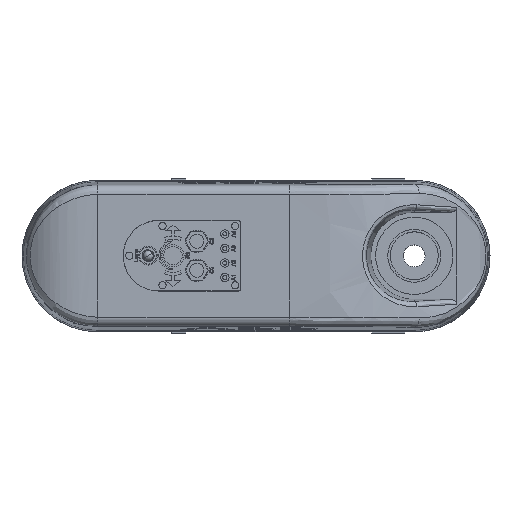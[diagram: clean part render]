
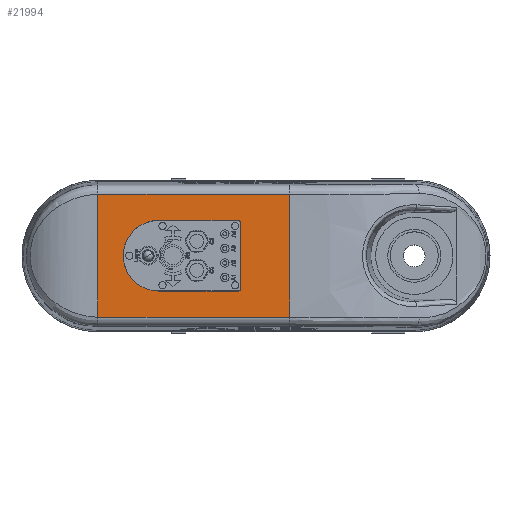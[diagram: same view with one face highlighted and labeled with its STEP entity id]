
A CAD part, top view. The second image highlights one B-rep face of the part: STEP entity #21994.
In plain terms, the highlighted planar face has unit normal (0, 0, 1).
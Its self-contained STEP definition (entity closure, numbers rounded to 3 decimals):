
#269 = CARTESIAN_POINT ( 'NONE',  ( 482.5, -32.001, 457.7 ) ) ;
#804 = CARTESIAN_POINT ( 'NONE',  ( 530., -705.455, 457.7 ) ) ;
#855 = CARTESIAN_POINT ( 'NONE',  ( 482.5, 33.172, 457.7 ) ) ;
#938 = DIRECTION ( 'NONE',  ( -1., 0., 0. ) ) ;
#1098 = DIRECTION ( 'NONE',  ( -1., 0., 0. ) ) ;
#2196 = EDGE_CURVE ( 'NONE', #12238, #17627, #25825, .T. ) ;
#2855 = DIRECTION ( 'NONE',  ( 1., 0., 0. ) ) ;
#3185 =( BOUNDED_CURVE ( )  B_SPLINE_CURVE ( 3, ( #269, #20711, #3363, #32937 ),
 .UNSPECIFIED., .F., .T. ) 
 B_SPLINE_CURVE_WITH_KNOTS ( ( 4, 4 ),
 ( 2.357, 3.927 ),
 .UNSPECIFIED. ) 
 CURVE ( )  GEOMETRIC_REPRESENTATION_ITEM ( )  RATIONAL_B_SPLINE_CURVE ( ( 1., 0.805, 0.805, 1. ) ) 
 REPRESENTATION_ITEM ( '' )  );
#3363 = CARTESIAN_POINT ( 'NONE',  ( 481.672, -34., 457.7 ) ) ;
#3457 = VERTEX_POINT ( 'NONE', #3459 ) ;
#3459 = CARTESIAN_POINT ( 'NONE',  ( 403.5, -34., 457.7 ) ) ;
#4781 = ORIENTED_EDGE ( 'NONE', *, *, #6463, .T. ) ;
#5243 = FACE_OUTER_BOUND ( 'NONE', #7436, .T. ) ;
#5856 = VERTEX_POINT ( 'NONE', #26539 ) ;
#6463 = EDGE_CURVE ( 'NONE', #9708, #9731, #21155, .T. ) ;
#6578 = VERTEX_POINT ( 'NONE', #17225 ) ;
#7139 = EDGE_CURVE ( 'NONE', #9708, #5856, #20799, .T. ) ;
#7436 = EDGE_LOOP ( 'NONE', ( #27427, #13865, #20136, #27301 ) ) ;
#7820 = ORIENTED_EDGE ( 'NONE', *, *, #26739, .T. ) ;
#8813 = VERTEX_POINT ( 'NONE', #10411 ) ;
#8860 = CARTESIAN_POINT ( 'NONE',  ( 482.5, -32.001, 457.7 ) ) ;
#9527 = CARTESIAN_POINT ( 'NONE',  ( 482.5, 34., 457.7 ) ) ;
#9708 = VERTEX_POINT ( 'NONE', #12990 ) ;
#9731 = VERTEX_POINT ( 'NONE', #10231 ) ;
#10150 = DIRECTION ( 'NONE',  ( 0., 0., 1. ) ) ;
#10231 = CARTESIAN_POINT ( 'NONE',  ( 482.5, 32.001, 457.7 ) ) ;
#10273 = CARTESIAN_POINT ( 'NONE',  ( 345., 0., 457.7 ) ) ;
#10411 = CARTESIAN_POINT ( 'NONE',  ( 345., -59.156, 457.7 ) ) ;
#10971 = VECTOR ( 'NONE', #1098, 1000. ) ;
#11047 = LINE ( 'NONE', #27675, #29266 ) ;
#11360 = EDGE_CURVE ( 'NONE', #6578, #12238, #31149, .T. ) ;
#12032 = EDGE_CURVE ( 'NONE', #3457, #19868, #31153, .T. ) ;
#12206 = EDGE_CURVE ( 'NONE', #34683, #9731, #11047, .T. ) ;
#12238 = VERTEX_POINT ( 'NONE', #12956 ) ;
#12501 = VECTOR ( 'NONE', #29774, 1000. ) ;
#12956 = CARTESIAN_POINT ( 'NONE',  ( 530., 59.156, 457.7 ) ) ;
#12990 = CARTESIAN_POINT ( 'NONE',  ( 480.501, 34., 457.7 ) ) ;
#13490 = EDGE_CURVE ( 'NONE', #8813, #17627, #18676, .T. ) ;
#13865 = ORIENTED_EDGE ( 'NONE', *, *, #2196, .T. ) ;
#15941 = DIRECTION ( 'NONE',  ( 0., 1., 0. ) ) ;
#16614 = AXIS2_PLACEMENT_3D ( 'NONE', #10273, #10150, #31010 ) ;
#17149 = EDGE_CURVE ( 'NONE', #5856, #3457, #37532, .T. ) ;
#17225 = CARTESIAN_POINT ( 'NONE',  ( 530., -59.156, 457.7 ) ) ;
#17627 = VERTEX_POINT ( 'NONE', #30558 ) ;
#17711 = CARTESIAN_POINT ( 'NONE',  ( 530., -59.156, 457.7 ) ) ;
#18673 = CARTESIAN_POINT ( 'NONE',  ( 481.672, 34., 457.7 ) ) ;
#18676 = LINE ( 'NONE', #22875, #20066 ) ;
#19757 = EDGE_CURVE ( 'NONE', #8813, #6578, #20786, .T. ) ;
#19868 = VERTEX_POINT ( 'NONE', #21354 ) ;
#19942 = ORIENTED_EDGE ( 'NONE', *, *, #12032, .F. ) ;
#20066 = VECTOR ( 'NONE', #32139, 1000. ) ;
#20136 = ORIENTED_EDGE ( 'NONE', *, *, #13490, .F. ) ;
#20711 = CARTESIAN_POINT ( 'NONE',  ( 482.5, -33.172, 457.7 ) ) ;
#20786 = LINE ( 'NONE', #17711, #35689 ) ;
#20799 = LINE ( 'NONE', #9527, #10971 ) ;
#21079 = FACE_BOUND ( 'NONE', #36053, .T. ) ;
#21155 =( BOUNDED_CURVE ( )  B_SPLINE_CURVE ( 3, ( #33526, #18673, #855, #30662 ),
 .UNSPECIFIED., .F., .T. ) 
 B_SPLINE_CURVE_WITH_KNOTS ( ( 4, 4 ),
 ( 2.357, 3.927 ),
 .UNSPECIFIED. ) 
 CURVE ( )  GEOMETRIC_REPRESENTATION_ITEM ( )  RATIONAL_B_SPLINE_CURVE ( ( 1., 0.805, 0.805, 1. ) ) 
 REPRESENTATION_ITEM ( '' )  );
#21354 = CARTESIAN_POINT ( 'NONE',  ( 480.501, -34., 457.7 ) ) ;
#21994 = ADVANCED_FACE ( 'NONE', ( #5243, #21079 ), #28133, .T. ) ;
#22875 = CARTESIAN_POINT ( 'NONE',  ( 345., -705.242, 457.7 ) ) ;
#25825 = LINE ( 'NONE', #33598, #26273 ) ;
#26204 = ORIENTED_EDGE ( 'NONE', *, *, #12206, .F. ) ;
#26273 = VECTOR ( 'NONE', #938, 1000. ) ;
#26539 = CARTESIAN_POINT ( 'NONE',  ( 403.5, 34., 457.7 ) ) ;
#26739 = EDGE_CURVE ( 'NONE', #34683, #19868, #3185, .T. ) ;
#27301 = ORIENTED_EDGE ( 'NONE', *, *, #19757, .T. ) ;
#27427 = ORIENTED_EDGE ( 'NONE', *, *, #11360, .T. ) ;
#27675 = CARTESIAN_POINT ( 'NONE',  ( 482.5, 34., 457.7 ) ) ;
#28133 = PLANE ( 'NONE',  #16614 ) ;
#28373 = DIRECTION ( 'NONE',  ( 0., 1., 0. ) ) ;
#29034 = ORIENTED_EDGE ( 'NONE', *, *, #17149, .F. ) ;
#29266 = VECTOR ( 'NONE', #15941, 1000. ) ;
#29774 = DIRECTION ( 'NONE',  ( 1., 0., 0. ) ) ;
#30084 = DIRECTION ( 'NONE',  ( 0., 1., 0. ) ) ;
#30558 = CARTESIAN_POINT ( 'NONE',  ( 345., 59.156, 457.7 ) ) ;
#30662 = CARTESIAN_POINT ( 'NONE',  ( 482.5, 32.001, 457.7 ) ) ;
#30994 = CARTESIAN_POINT ( 'NONE',  ( 403.5, 0., 457.7 ) ) ;
#31010 = DIRECTION ( 'NONE',  ( 0., -1., 0. ) ) ;
#31149 = LINE ( 'NONE', #804, #35343 ) ;
#31153 = LINE ( 'NONE', #36726, #12501 ) ;
#31245 = DIRECTION ( 'NONE',  ( 0., 0., 1. ) ) ;
#32139 = DIRECTION ( 'NONE',  ( 0., 1., 0. ) ) ;
#32937 = CARTESIAN_POINT ( 'NONE',  ( 480.501, -34., 457.7 ) ) ;
#33190 = ORIENTED_EDGE ( 'NONE', *, *, #7139, .F. ) ;
#33526 = CARTESIAN_POINT ( 'NONE',  ( 480.501, 34., 457.7 ) ) ;
#33598 = CARTESIAN_POINT ( 'NONE',  ( 345., 59.156, 457.7 ) ) ;
#34106 = AXIS2_PLACEMENT_3D ( 'NONE', #30994, #31245, #28373 ) ;
#34683 = VERTEX_POINT ( 'NONE', #8860 ) ;
#35343 = VECTOR ( 'NONE', #30084, 1000. ) ;
#35689 = VECTOR ( 'NONE', #2855, 1000. ) ;
#36053 = EDGE_LOOP ( 'NONE', ( #33190, #4781, #26204, #7820, #19942, #29034 ) ) ;
#36726 = CARTESIAN_POINT ( 'NONE',  ( 482.5, -34., 457.7 ) ) ;
#37532 = CIRCLE ( 'NONE', #34106, 34. ) ;
